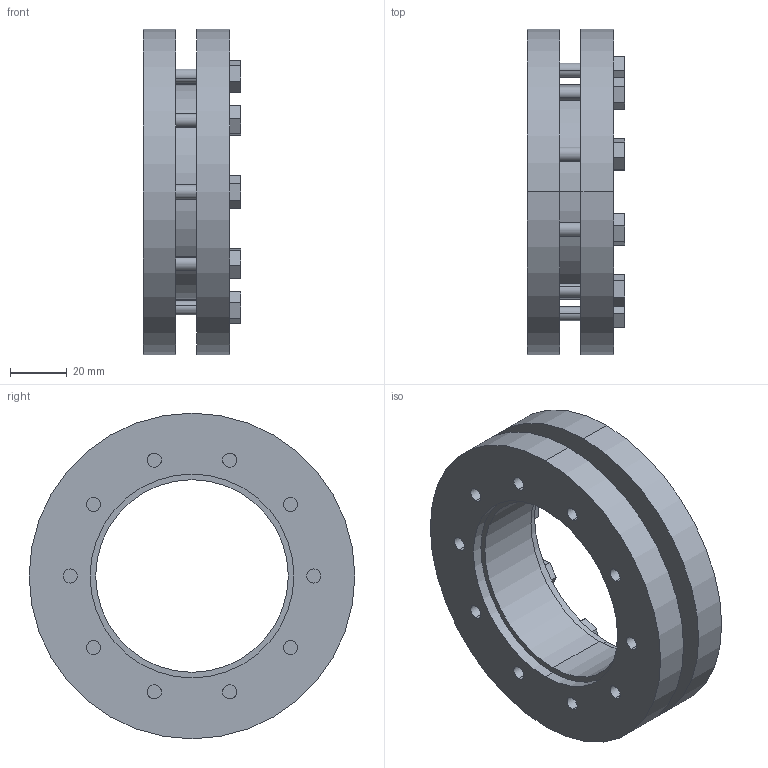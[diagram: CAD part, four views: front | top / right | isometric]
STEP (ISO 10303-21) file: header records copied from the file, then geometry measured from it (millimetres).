
FILE_DESCRIPTION (( 'STEP AP203' ), '1' );
FILE_NAME ('SSD-68.STEP', '2009-09-29T17:42:20', ( 'USER' ), ( 'HOME' ), 'SwSTEP 2.0', 'SolidWorks 2007', '' );
FILE_SCHEMA (( 'CONFIG_CONTROL_DESIGN' ));
Length unit declared in the file: millimetre
Products named in the file (1): SSD-68
Bounding box: 34.5 x 115 x 115 mm (x, y, z)
Volume: 161928.4 mm3; surface area: 51165.2 mm2
Topology: 11 solids, 11 shells, 168 faces, 396 edges, 264 vertices
Faces by surface type: plane 96, cylinder 72
Entity records: 5005 total; most frequent: DIRECTION 878, CARTESIAN_POINT 829, ORIENTED_EDGE 792, EDGE_CURVE 396, AXIS2_PLACEMENT_3D 313, VERTEX_POINT 264, VECTOR 252, LINE 252
